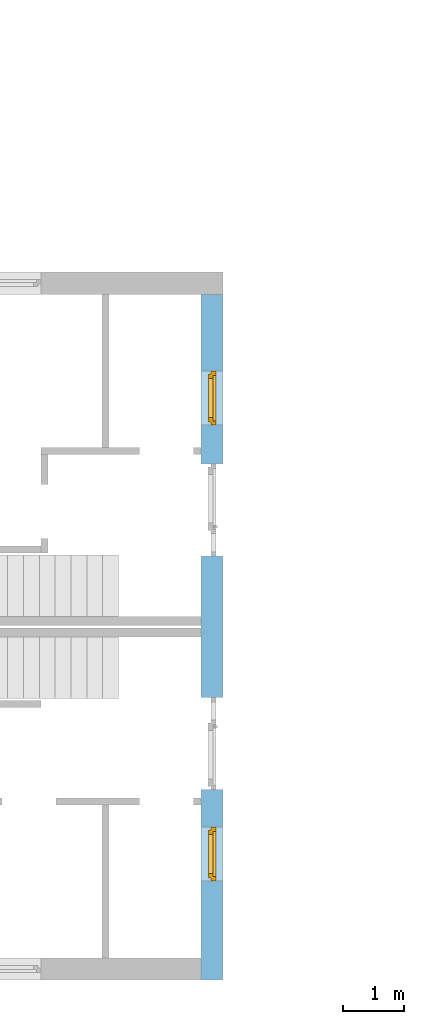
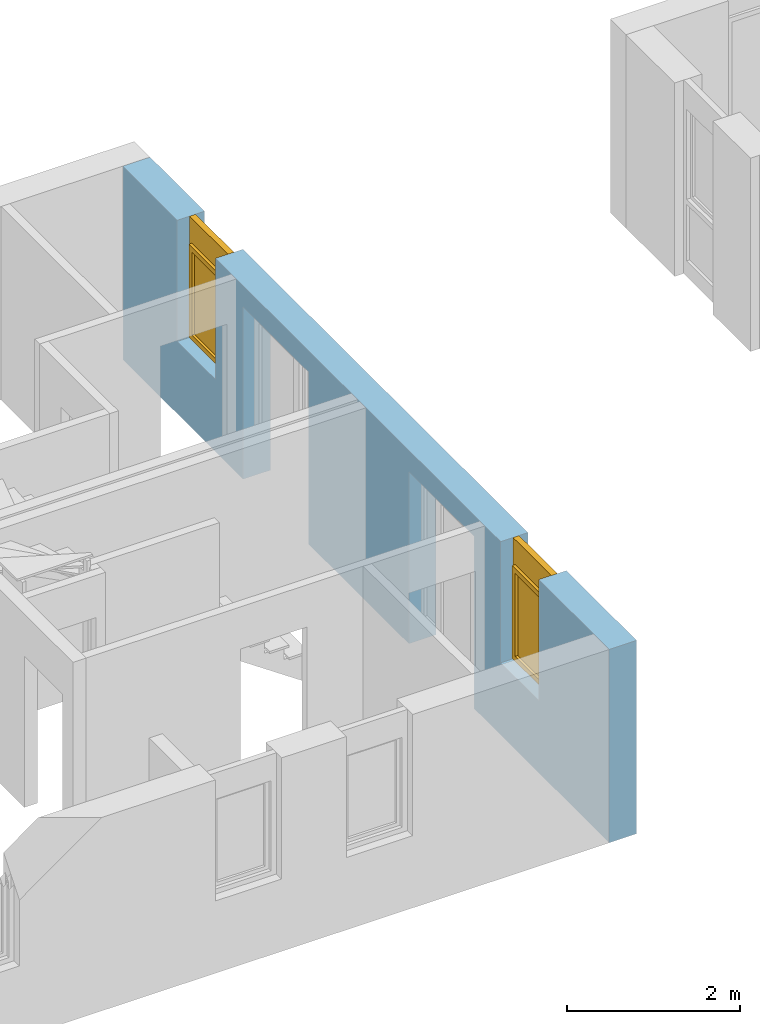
# One storey, part 10 of 41: 2 windows, 4 openings, plus 1 element that does not belong to this part.
"""IFC2X3 building model written with IfcOpenShell, lengths in millimetres."""

from ifc_helpers import new_model, entity, si_unit, converted_unit, frame, frame_2d, origin, origin_with_axes, place, context, subcontext, project, spatial, rectangle, extrude, faceted_brep, material, layer, layer_set, layer_usage, type_object, element, fill, save


model = new_model("IFC2X3")

# Units and contexts
model_context = context("Model", 3, precision=1e-05, world=origin())
body_context = subcontext(model_context, "Body", "Model", "MODEL_VIEW")
ifc_project = project(units=[si_unit("LENGTHUNIT", "METRE", prefix="MILLI"), converted_unit("PLANEANGLEUNIT", "DEGREE", entity("IfcPlaneAngleMeasure", 0.0174532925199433), si_unit("PLANEANGLEUNIT", "RADIAN"), dimensions=[0, 0, 0, 0, 0, 0, 0]), si_unit("AREAUNIT", "SQUARE_METRE"), si_unit("VOLUMEUNIT", "CUBIC_METRE")], contexts=[model_context])

# Building, storey
building_placement = place(None, origin())
building = spatial("IfcBuilding", under=ifc_project, at=building_placement, Name="Gebäude", CompositionType="ELEMENT")
storey_placement = place(building_placement, frame((0.0, 0.0, -200.0), z_axis=(0.0, 0.0, 1.0), x_axis=(1.0, 0.0, 0.0)))
storey = spatial("IfcBuildingStorey", under=building, at=storey_placement, Name="EG.- Grundriss", CompositionType="ELEMENT", Elevation=-200.0)

# Wall, openings, windows
ifc_material_1 = material(Name="Poroton")
ifc_layer = layer(ifc_material_1, 365.0000000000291)
ifc_layer_set = layer_set([ifc_layer])
ifc_layer_usage = layer_usage(ifc_layer_set, "AXIS2", "POSITIVE", 0.0)
wall_placement = place(storey_placement, frame((142357.7928067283, 125274.8877321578, 0.0), z_axis=(0.0, 0.0, 1.0), x_axis=(0.0, 1.0, 0.0)))
wall = element("IfcWallStandardCase", 1, at=wall_placement, inside=storey, material=ifc_layer_usage, Name="<Unnamed Element>", context=body_context, shape_type="SweptSolid", body=[
    extrude(rectangle(XDim=11250.00000031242, YDim=365.0000000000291, at=frame_2d((5625.000000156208, 182.5000000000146), x_axis=(1.0, 0.0))), origin_with_axes(), (0.0, 0.0, 1.0), 2730.0),
])
opening_1_placement = place(wall_placement, frame((6955.000000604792, 0.0, 0.0), z_axis=(0.0, 1.0, 0.0), x_axis=(0.0, 0.0, 1.0)))
element("IfcOpeningElement", 2, at=opening_1_placement, cuts=wall, Name="Türöffnung", ObjectType="Opening", context=body_context, shape_type="SweptSolid", body=[
    extrude(rectangle(XDim=2430.0, YDim=1510.0, at=frame_2d((1215.0, 755.0), x_axis=(1.0, 0.0))), origin_with_axes(), (0.0, 0.0, 1.0), 365.0000000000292),
])
opening_2_placement = place(wall_placement, frame((3125.0, 0.0, 0.0), z_axis=(0.0, 1.0, 0.0), x_axis=(0.0, 0.0, 1.0)))
element("IfcOpeningElement", 3, at=opening_2_placement, cuts=wall, Name="Türöffnung", ObjectType="Opening", context=body_context, shape_type="SweptSolid", body=[
    extrude(rectangle(XDim=2430.0, YDim=1510.0, at=frame_2d((1215.0, 755.0), x_axis=(1.0, 0.0))), origin_with_axes(), (0.0, 0.0, 1.0), 365.0000000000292),
])
opening_3_placement = place(wall_placement, frame((9105.000000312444, 0.0, 1020.0), z_axis=(0.0, 1.0, 0.0), x_axis=(0.0, 0.0, 1.0)))
opening_3 = element("IfcOpeningElement", 4, at=opening_3_placement, cuts=wall, Name="Fensteröffnung", ObjectType="Opening", context=body_context, shape_type="SweptSolid", body=[
    extrude(rectangle(XDim=1710.0, YDim=885.0, at=frame_2d((855.0, 442.5), x_axis=(1.0, 0.0))), origin_with_axes(), (0.0, 0.0, 1.0), 365.0000000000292),
])
opening_4_placement = place(wall_placement, frame((1625.0, 0.0, 1020.0), z_axis=(0.0, 1.0, 0.0), x_axis=(0.0, 0.0, 1.0)))
opening_4 = element("IfcOpeningElement", 5, at=opening_4_placement, cuts=wall, Name="Fensteröffnung", ObjectType="Opening", context=body_context, shape_type="SweptSolid", body=[
    extrude(rectangle(XDim=1710.0, YDim=885.0, at=frame_2d((855.0, 442.5), x_axis=(1.0, 0.0))), origin_with_axes(), (0.0, 0.0, 1.0), 365.0000000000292),
])
ifc_material_2 = material()
window_style_1 = type_object("IfcWindowStyle", Name="Fenster", ConstructionType="NOTDEFINED", OperationType="USERDEFINED", ParameterTakesPrecedence=False, Sizeable=False)
window_1_placement = place(opening_3_placement, frame((0.0, 0.0, 0.0), z_axis=(1.0, 0.0, 0.0), x_axis=(0.0, 1.0, 0.0)))
window_1 = element("IfcWindow", 6, at=window_1_placement, inside=storey, type_object=window_style_1, material=ifc_material_2, Name="Fenster", OverallHeight=1710.0, OverallWidth=885.0, context=body_context, shape_type="Brep", body=[
    faceted_brep([(885.0, 200.0000000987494, 1710.0), (815.0, 200.0000000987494, 1710.0), (815.0, 200.0000000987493, -2.449293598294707e-15), (885.0, 200.0000000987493, -2.449293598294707e-15), (885.0, 120.0000000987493, 2.449293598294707e-15), (815.0, 120.0000000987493, 2.449293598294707e-15), (815.0, 120.0000000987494, 1710.0), (885.0, 120.0000000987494, 1710.0), (885.0, 200.0000000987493, -2.449293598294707e-15), (885.0, 120.0000000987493, 2.449293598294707e-15), (885.0, 120.0000000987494, 1710.0), (885.0, 200.0000000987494, 1710.0), (815.0, 200.0000000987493, -2.449293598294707e-15), (815.0, 120.0000000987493, 2.449293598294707e-15), (885.0, 120.0000000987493, 2.449293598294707e-15), (885.0, 200.0000000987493, -2.449293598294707e-15), (815.0, 200.0000000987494, 1710.0), (815.0, 120.0000000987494, 1710.0), (815.0, 120.0000000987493, 2.449293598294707e-15), (815.0, 200.0000000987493, -2.449293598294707e-15), (885.0, 200.0000000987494, 1710.0), (885.0, 120.0000000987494, 1710.0), (815.0, 120.0000000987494, 1710.0), (815.0, 200.0000000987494, 1710.0)], [[[0, 1, 2, 3]], [[4, 5, 6, 7]], [[8, 9, 10, 11]], [[12, 13, 14, 15]], [[16, 17, 18, 19]], [[20, 21, 22, 23]]], orient=[[False], [False], [False], [False], [False], [False]]),
    faceted_brep([(69.99999998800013, 200.0000000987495, 1710.0), (-1.199987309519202e-08, 200.0000000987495, 1710.0), (-1.199987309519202e-08, 200.0000000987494, -2.449293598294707e-15), (69.99999998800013, 200.0000000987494, -2.449293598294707e-15), (69.99999998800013, 120.0000000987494, 2.449293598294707e-15), (-1.199987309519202e-08, 120.0000000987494, 2.449293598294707e-15), (-1.199987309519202e-08, 120.0000000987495, 1710.0), (69.99999998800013, 120.0000000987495, 1710.0), (69.99999998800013, 200.0000000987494, -2.449293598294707e-15), (69.99999998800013, 120.0000000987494, 2.449293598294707e-15), (69.99999998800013, 120.0000000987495, 1710.0), (69.99999998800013, 200.0000000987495, 1710.0), (-1.199987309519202e-08, 200.0000000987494, -2.449293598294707e-15), (-1.199987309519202e-08, 120.0000000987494, 2.449293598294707e-15), (69.99999998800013, 120.0000000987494, 2.449293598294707e-15), (69.99999998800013, 200.0000000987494, -2.449293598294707e-15), (-1.199987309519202e-08, 200.0000000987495, 1710.0), (-1.199987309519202e-08, 120.0000000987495, 1710.0), (-1.199987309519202e-08, 120.0000000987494, 2.449293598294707e-15), (-1.199987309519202e-08, 200.0000000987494, -2.449293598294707e-15), (69.99999998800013, 200.0000000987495, 1710.0), (69.99999998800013, 120.0000000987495, 1710.0), (-1.199987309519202e-08, 120.0000000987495, 1710.0), (-1.199987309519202e-08, 200.0000000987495, 1710.0)], [[[0, 1, 2, 3]], [[4, 5, 6, 7]], [[8, 9, 10, 11]], [[12, 13, 14, 15]], [[16, 17, 18, 19]], [[20, 21, 22, 23]]], orient=[[False], [False], [False], [False], [False], [False]]),
    faceted_brep([(815.0, 200.0000000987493, 70.0), (69.99999998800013, 200.0000000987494, 70.0), (69.99999998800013, 200.0000000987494, -2.449293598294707e-15), (815.0, 200.0000000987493, -2.449293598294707e-15), (815.0, 120.0000000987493, 2.449293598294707e-15), (69.99999998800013, 120.0000000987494, 2.449293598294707e-15), (69.99999998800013, 120.0000000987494, 70.0), (815.0, 120.0000000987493, 70.0), (815.0, 200.0000000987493, -2.449293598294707e-15), (815.0, 120.0000000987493, 2.449293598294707e-15), (815.0, 120.0000000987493, 70.0), (815.0, 200.0000000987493, 70.0), (69.99999998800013, 200.0000000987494, -2.449293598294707e-15), (69.99999998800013, 120.0000000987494, 2.449293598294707e-15), (815.0, 120.0000000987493, 2.449293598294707e-15), (815.0, 200.0000000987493, -2.449293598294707e-15), (69.99999998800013, 200.0000000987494, 70.0), (69.99999998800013, 120.0000000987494, 70.0), (69.99999998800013, 120.0000000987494, 2.449293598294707e-15), (69.99999998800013, 200.0000000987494, -2.449293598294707e-15), (815.0, 200.0000000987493, 70.0), (815.0, 120.0000000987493, 70.0), (69.99999998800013, 120.0000000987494, 70.0), (69.99999998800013, 200.0000000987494, 70.0)], [[[0, 1, 2, 3]], [[4, 5, 6, 7]], [[8, 9, 10, 11]], [[12, 13, 14, 15]], [[16, 17, 18, 19]], [[20, 21, 22, 23]]], orient=[[False], [False], [False], [False], [False], [False]]),
    faceted_brep([(815.0, 200.0000000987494, 1710.0), (69.99999998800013, 200.0000000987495, 1710.0), (69.99999998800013, 200.0000000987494, 1340.0), (815.0, 200.0000000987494, 1340.0), (815.0, 120.0000000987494, 1340.0), (69.99999998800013, 120.0000000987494, 1340.0), (69.99999998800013, 120.0000000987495, 1710.0), (815.0, 120.0000000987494, 1710.0), (815.0, 200.0000000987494, 1340.0), (815.0, 120.0000000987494, 1340.0), (815.0, 120.0000000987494, 1710.0), (815.0, 200.0000000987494, 1710.0), (69.99999998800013, 200.0000000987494, 1340.0), (69.99999998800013, 120.0000000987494, 1340.0), (815.0, 120.0000000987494, 1340.0), (815.0, 200.0000000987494, 1340.0), (69.99999998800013, 200.0000000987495, 1710.0), (69.99999998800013, 120.0000000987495, 1710.0), (69.99999998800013, 120.0000000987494, 1340.0), (69.99999998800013, 200.0000000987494, 1340.0), (815.0, 200.0000000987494, 1710.0), (815.0, 120.0000000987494, 1710.0), (69.99999998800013, 120.0000000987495, 1710.0), (69.99999998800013, 200.0000000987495, 1710.0)], [[[0, 1, 2, 3]], [[4, 5, 6, 7]], [[8, 9, 10, 11]], [[12, 13, 14, 15]], [[16, 17, 18, 19]], [[20, 21, 22, 23]]], orient=[[False], [False], [False], [False], [False], [False]]),
    faceted_brep([(835.0, 240.0000000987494, 1360.0), (765.0, 240.0000000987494, 1360.0), (765.0, 240.0000000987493, 50.0), (835.0, 240.0000000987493, 50.0), (835.0, 170.0000000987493, 50.00000000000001), (765.0, 170.0000000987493, 50.00000000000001), (765.0, 170.0000000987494, 1360.0), (835.0, 170.0000000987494, 1360.0), (835.0, 240.0000000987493, 50.0), (835.0, 170.0000000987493, 50.00000000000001), (835.0, 170.0000000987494, 1360.0), (835.0, 240.0000000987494, 1360.0), (765.0, 240.0000000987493, 50.0), (765.0, 170.0000000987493, 50.00000000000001), (835.0, 170.0000000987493, 50.00000000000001), (835.0, 240.0000000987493, 50.0), (765.0, 240.0000000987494, 1360.0), (765.0, 170.0000000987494, 1360.0), (765.0, 170.0000000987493, 50.00000000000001), (765.0, 240.0000000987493, 50.0), (835.0, 240.0000000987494, 1360.0), (835.0, 170.0000000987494, 1360.0), (765.0, 170.0000000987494, 1360.0), (765.0, 240.0000000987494, 1360.0)], [[[0, 1, 2, 3]], [[4, 5, 6, 7]], [[8, 9, 10, 11]], [[12, 13, 14, 15]], [[16, 17, 18, 19]], [[20, 21, 22, 23]]], orient=[[False], [False], [False], [False], [False], [False]]),
    faceted_brep([(119.9999999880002, 240.0000000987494, 1360.0), (49.99999998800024, 240.0000000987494, 1360.0), (49.99999998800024, 240.0000000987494, 50.0), (119.9999999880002, 240.0000000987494, 50.0), (119.9999999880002, 170.0000000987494, 50.00000000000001), (49.99999998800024, 170.0000000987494, 50.00000000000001), (49.99999998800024, 170.0000000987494, 1360.0), (119.9999999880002, 170.0000000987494, 1360.0), (119.9999999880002, 240.0000000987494, 50.0), (119.9999999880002, 170.0000000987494, 50.00000000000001), (119.9999999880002, 170.0000000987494, 1360.0), (119.9999999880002, 240.0000000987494, 1360.0), (49.99999998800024, 240.0000000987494, 50.0), (49.99999998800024, 170.0000000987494, 50.00000000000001), (119.9999999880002, 170.0000000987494, 50.00000000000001), (119.9999999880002, 240.0000000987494, 50.0), (49.99999998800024, 240.0000000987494, 1360.0), (49.99999998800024, 170.0000000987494, 1360.0), (49.99999998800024, 170.0000000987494, 50.00000000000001), (49.99999998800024, 240.0000000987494, 50.0), (119.9999999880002, 240.0000000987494, 1360.0), (119.9999999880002, 170.0000000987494, 1360.0), (49.99999998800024, 170.0000000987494, 1360.0), (49.99999998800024, 240.0000000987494, 1360.0)], [[[0, 1, 2, 3]], [[4, 5, 6, 7]], [[8, 9, 10, 11]], [[12, 13, 14, 15]], [[16, 17, 18, 19]], [[20, 21, 22, 23]]], orient=[[False], [False], [False], [False], [False], [False]]),
    faceted_brep([(765.0, 240.0000000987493, 120.0), (119.9999999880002, 240.0000000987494, 120.0), (119.9999999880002, 240.0000000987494, 50.0), (765.0, 240.0000000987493, 50.0), (765.0, 170.0000000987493, 50.00000000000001), (119.9999999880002, 170.0000000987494, 50.00000000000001), (119.9999999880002, 170.0000000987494, 120.0), (765.0, 170.0000000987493, 120.0), (765.0, 240.0000000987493, 50.0), (765.0, 170.0000000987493, 50.00000000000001), (765.0, 170.0000000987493, 120.0), (765.0, 240.0000000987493, 120.0), (119.9999999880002, 240.0000000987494, 50.0), (119.9999999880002, 170.0000000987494, 50.00000000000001), (765.0, 170.0000000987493, 50.00000000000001), (765.0, 240.0000000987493, 50.0), (119.9999999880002, 240.0000000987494, 120.0), (119.9999999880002, 170.0000000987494, 120.0), (119.9999999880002, 170.0000000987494, 50.00000000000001), (119.9999999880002, 240.0000000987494, 50.0), (765.0, 240.0000000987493, 120.0), (765.0, 170.0000000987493, 120.0), (119.9999999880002, 170.0000000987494, 120.0), (119.9999999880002, 240.0000000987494, 120.0)], [[[0, 1, 2, 3]], [[4, 5, 6, 7]], [[8, 9, 10, 11]], [[12, 13, 14, 15]], [[16, 17, 18, 19]], [[20, 21, 22, 23]]], orient=[[False], [False], [False], [False], [False], [False]]),
    faceted_brep([(765.0, 240.0000000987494, 1360.0), (119.9999999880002, 240.0000000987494, 1360.0), (119.9999999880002, 240.0000000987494, 1290.0), (765.0, 240.0000000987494, 1290.0), (765.0, 170.0000000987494, 1290.0), (119.9999999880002, 170.0000000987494, 1290.0), (119.9999999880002, 170.0000000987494, 1360.0), (765.0, 170.0000000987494, 1360.0), (765.0, 240.0000000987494, 1290.0), (765.0, 170.0000000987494, 1290.0), (765.0, 170.0000000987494, 1360.0), (765.0, 240.0000000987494, 1360.0), (119.9999999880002, 240.0000000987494, 1290.0), (119.9999999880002, 170.0000000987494, 1290.0), (765.0, 170.0000000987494, 1290.0), (765.0, 240.0000000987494, 1290.0), (119.9999999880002, 240.0000000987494, 1360.0), (119.9999999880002, 170.0000000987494, 1360.0), (119.9999999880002, 170.0000000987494, 1290.0), (119.9999999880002, 240.0000000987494, 1290.0), (765.0, 240.0000000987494, 1360.0), (765.0, 170.0000000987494, 1360.0), (119.9999999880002, 170.0000000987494, 1360.0), (119.9999999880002, 240.0000000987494, 1360.0)], [[[0, 1, 2, 3]], [[4, 5, 6, 7]], [[8, 9, 10, 11]], [[12, 13, 14, 15]], [[16, 17, 18, 19]], [[20, 21, 22, 23]]], orient=[[False], [False], [False], [False], [False], [False]]),
    faceted_brep([(765.0, 205.0000000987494, 120.0), (765.0, 205.0000000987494, 1290.0), (119.9999999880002, 205.0000000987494, 1290.0), (119.9999999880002, 205.0000000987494, 120.0), (765.0, 204.0000000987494, 120.0), (119.9999999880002, 204.0000000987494, 120.0), (119.9999999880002, 204.0000000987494, 1290.0), (765.0, 204.0000000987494, 1290.0), (765.0, 205.0000000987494, 120.0), (765.0, 204.0000000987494, 120.0), (765.0, 204.0000000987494, 1290.0), (765.0, 205.0000000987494, 1290.0), (765.0, 205.0000000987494, 1290.0), (765.0, 204.0000000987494, 1290.0), (119.9999999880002, 204.0000000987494, 1290.0), (119.9999999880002, 205.0000000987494, 1290.0), (119.9999999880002, 205.0000000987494, 1290.0), (119.9999999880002, 204.0000000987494, 1290.0), (119.9999999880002, 204.0000000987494, 120.0), (119.9999999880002, 205.0000000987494, 120.0), (119.9999999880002, 205.0000000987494, 120.0), (119.9999999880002, 204.0000000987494, 120.0), (765.0, 204.0000000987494, 120.0), (765.0, 205.0000000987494, 120.0)], [[[0, 1, 2, 3]], [[4, 5, 6, 7]], [[8, 9, 10, 11]], [[12, 13, 14, 15]], [[16, 17, 18, 19]], [[20, 21, 22, 23]]], orient=[[False], [False], [False], [False], [False], [False]]),
])
fill(opening_3, window_1)
ifc_material_3 = material()
window_style_2 = type_object("IfcWindowStyle", Name="Fenster", ConstructionType="NOTDEFINED", OperationType="USERDEFINED", ParameterTakesPrecedence=False, Sizeable=False)
window_2_placement = place(opening_4_placement, frame((0.0, 0.0, 0.0), z_axis=(1.0, 0.0, 0.0), x_axis=(0.0, 1.0, 0.0)))
window_2 = element("IfcWindow", 7, at=window_2_placement, inside=storey, type_object=window_style_2, material=ifc_material_3, Name="Fenster", OverallHeight=1710.0, OverallWidth=885.0, context=body_context, shape_type="Brep", body=[
    faceted_brep([(4.898587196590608e-15, 200.0000000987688, 1710.0), (4.898587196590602e-15, 200.0000000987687, -2.449293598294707e-15), (69.99999999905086, 200.0000000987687, -2.449293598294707e-15), (69.99999999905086, 200.0000000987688, 1710.0), (0.0, 120.0000000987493, 2.449293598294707e-15), (6.091147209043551e-30, 120.0000000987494, 1710.0), (69.99999999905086, 120.0000000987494, 1710.0), (69.99999999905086, 120.0000000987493, 2.449293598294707e-15), (4.898587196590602e-15, 200.0000000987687, -2.449293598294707e-15), (4.898587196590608e-15, 200.0000000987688, 1710.0), (6.091147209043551e-30, 120.0000000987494, 1710.0), (0.0, 120.0000000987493, 2.449293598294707e-15), (69.99999999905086, 200.0000000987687, -2.449293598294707e-15), (4.898587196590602e-15, 200.0000000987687, -2.449293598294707e-15), (0.0, 120.0000000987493, 2.449293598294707e-15), (69.99999999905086, 120.0000000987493, 2.449293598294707e-15), (69.99999999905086, 200.0000000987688, 1710.0), (69.99999999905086, 200.0000000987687, -2.449293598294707e-15), (69.99999999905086, 120.0000000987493, 2.449293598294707e-15), (69.99999999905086, 120.0000000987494, 1710.0), (4.898587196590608e-15, 200.0000000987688, 1710.0), (69.99999999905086, 200.0000000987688, 1710.0), (69.99999999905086, 120.0000000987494, 1710.0), (6.091147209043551e-30, 120.0000000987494, 1710.0)], [[[0, 1, 2, 3]], [[4, 5, 6, 7]], [[8, 9, 10, 11]], [[12, 13, 14, 15]], [[16, 17, 18, 19]], [[20, 21, 22, 23]]], orient=[[False], [False], [False], [False], [False], [False]]),
    faceted_brep([(815.0000000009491, 200.0000000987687, 1710.0), (815.0000000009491, 200.0000000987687, -2.449293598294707e-15), (884.9999999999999, 200.0000000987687, -2.449293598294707e-15), (884.9999999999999, 200.0000000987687, 1710.0), (815.0000000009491, 120.0000000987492, 2.449293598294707e-15), (815.0000000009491, 120.0000000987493, 1710.0), (884.9999999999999, 120.0000000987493, 1710.0), (884.9999999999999, 120.0000000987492, 2.449293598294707e-15), (815.0000000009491, 200.0000000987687, -2.449293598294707e-15), (815.0000000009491, 200.0000000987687, 1710.0), (815.0000000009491, 120.0000000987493, 1710.0), (815.0000000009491, 120.0000000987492, 2.449293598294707e-15), (884.9999999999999, 200.0000000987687, -2.449293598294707e-15), (815.0000000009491, 200.0000000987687, -2.449293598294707e-15), (815.0000000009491, 120.0000000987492, 2.449293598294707e-15), (884.9999999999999, 120.0000000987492, 2.449293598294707e-15), (884.9999999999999, 200.0000000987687, 1710.0), (884.9999999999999, 200.0000000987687, -2.449293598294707e-15), (884.9999999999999, 120.0000000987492, 2.449293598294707e-15), (884.9999999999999, 120.0000000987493, 1710.0), (815.0000000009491, 200.0000000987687, 1710.0), (884.9999999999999, 200.0000000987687, 1710.0), (884.9999999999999, 120.0000000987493, 1710.0), (815.0000000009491, 120.0000000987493, 1710.0)], [[[0, 1, 2, 3]], [[4, 5, 6, 7]], [[8, 9, 10, 11]], [[12, 13, 14, 15]], [[16, 17, 18, 19]], [[20, 21, 22, 23]]], orient=[[False], [False], [False], [False], [False], [False]]),
    faceted_brep([(69.99999999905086, 200.0000000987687, 70.0), (69.99999999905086, 200.0000000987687, -2.449293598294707e-15), (815.0000000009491, 200.0000000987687, -2.449293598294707e-15), (815.0000000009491, 200.0000000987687, 70.0), (69.99999999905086, 120.0000000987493, 2.449293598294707e-15), (69.99999999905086, 120.0000000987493, 70.0), (815.0000000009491, 120.0000000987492, 70.0), (815.0000000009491, 120.0000000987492, 2.449293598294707e-15), (69.99999999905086, 200.0000000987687, -2.449293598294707e-15), (69.99999999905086, 200.0000000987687, 70.0), (69.99999999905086, 120.0000000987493, 70.0), (69.99999999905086, 120.0000000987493, 2.449293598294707e-15), (815.0000000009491, 200.0000000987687, -2.449293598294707e-15), (69.99999999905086, 200.0000000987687, -2.449293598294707e-15), (69.99999999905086, 120.0000000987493, 2.449293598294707e-15), (815.0000000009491, 120.0000000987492, 2.449293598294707e-15), (815.0000000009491, 200.0000000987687, 70.0), (815.0000000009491, 200.0000000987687, -2.449293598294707e-15), (815.0000000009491, 120.0000000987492, 2.449293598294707e-15), (815.0000000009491, 120.0000000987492, 70.0), (69.99999999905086, 200.0000000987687, 70.0), (815.0000000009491, 200.0000000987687, 70.0), (815.0000000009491, 120.0000000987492, 70.0), (69.99999999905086, 120.0000000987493, 70.0)], [[[0, 1, 2, 3]], [[4, 5, 6, 7]], [[8, 9, 10, 11]], [[12, 13, 14, 15]], [[16, 17, 18, 19]], [[20, 21, 22, 23]]], orient=[[False], [False], [False], [False], [False], [False]]),
    faceted_brep([(69.99999999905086, 200.0000000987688, 1710.0), (69.99999999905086, 200.0000000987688, 1340.0), (815.0000000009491, 200.0000000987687, 1340.0), (815.0000000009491, 200.0000000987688, 1710.0), (69.99999999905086, 120.0000000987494, 1340.0), (69.99999999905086, 120.0000000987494, 1710.0), (815.0000000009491, 120.0000000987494, 1710.0), (815.0000000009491, 120.0000000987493, 1340.0), (69.99999999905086, 200.0000000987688, 1340.0), (69.99999999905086, 200.0000000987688, 1710.0), (69.99999999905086, 120.0000000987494, 1710.0), (69.99999999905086, 120.0000000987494, 1340.0), (815.0000000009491, 200.0000000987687, 1340.0), (69.99999999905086, 200.0000000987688, 1340.0), (69.99999999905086, 120.0000000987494, 1340.0), (815.0000000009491, 120.0000000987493, 1340.0), (815.0000000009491, 200.0000000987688, 1710.0), (815.0000000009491, 200.0000000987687, 1340.0), (815.0000000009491, 120.0000000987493, 1340.0), (815.0000000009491, 120.0000000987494, 1710.0), (69.99999999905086, 200.0000000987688, 1710.0), (815.0000000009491, 200.0000000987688, 1710.0), (815.0000000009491, 120.0000000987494, 1710.0), (69.99999999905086, 120.0000000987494, 1710.0)], [[[0, 1, 2, 3]], [[4, 5, 6, 7]], [[8, 9, 10, 11]], [[12, 13, 14, 15]], [[16, 17, 18, 19]], [[20, 21, 22, 23]]], orient=[[False], [False], [False], [False], [False], [False]]),
    faceted_brep([(49.99999999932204, 240.0000000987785, 1360.0), (49.99999999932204, 240.0000000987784, 50.0), (119.9999999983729, 240.0000000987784, 50.0), (119.9999999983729, 240.0000000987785, 1360.0), (49.99999999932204, 170.0000000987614, 50.00000000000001), (49.99999999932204, 170.0000000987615, 1360.0), (119.9999999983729, 170.0000000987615, 1360.0), (119.9999999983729, 170.0000000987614, 50.00000000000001), (49.99999999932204, 240.0000000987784, 50.0), (49.99999999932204, 240.0000000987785, 1360.0), (49.99999999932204, 170.0000000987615, 1360.0), (49.99999999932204, 170.0000000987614, 50.00000000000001), (119.9999999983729, 240.0000000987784, 50.0), (49.99999999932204, 240.0000000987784, 50.0), (49.99999999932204, 170.0000000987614, 50.00000000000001), (119.9999999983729, 170.0000000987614, 50.00000000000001), (119.9999999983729, 240.0000000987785, 1360.0), (119.9999999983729, 240.0000000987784, 50.0), (119.9999999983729, 170.0000000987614, 50.00000000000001), (119.9999999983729, 170.0000000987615, 1360.0), (49.99999999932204, 240.0000000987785, 1360.0), (119.9999999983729, 240.0000000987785, 1360.0), (119.9999999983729, 170.0000000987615, 1360.0), (49.99999999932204, 170.0000000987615, 1360.0)], [[[0, 1, 2, 3]], [[4, 5, 6, 7]], [[8, 9, 10, 11]], [[12, 13, 14, 15]], [[16, 17, 18, 19]], [[20, 21, 22, 23]]], orient=[[False], [False], [False], [False], [False], [False]]),
    faceted_brep([(765.000000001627, 240.0000000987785, 1360.0), (765.000000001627, 240.0000000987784, 50.0), (835.0000000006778, 240.0000000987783, 50.0), (835.0000000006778, 240.0000000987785, 1360.0), (765.000000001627, 170.0000000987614, 50.00000000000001), (765.000000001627, 170.0000000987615, 1360.0), (835.0000000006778, 170.0000000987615, 1360.0), (835.0000000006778, 170.0000000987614, 50.00000000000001), (765.000000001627, 240.0000000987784, 50.0), (765.000000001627, 240.0000000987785, 1360.0), (765.000000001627, 170.0000000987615, 1360.0), (765.000000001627, 170.0000000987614, 50.00000000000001), (835.0000000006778, 240.0000000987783, 50.0), (765.000000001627, 240.0000000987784, 50.0), (765.000000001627, 170.0000000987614, 50.00000000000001), (835.0000000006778, 170.0000000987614, 50.00000000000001), (835.0000000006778, 240.0000000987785, 1360.0), (835.0000000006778, 240.0000000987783, 50.0), (835.0000000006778, 170.0000000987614, 50.00000000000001), (835.0000000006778, 170.0000000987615, 1360.0), (765.000000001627, 240.0000000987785, 1360.0), (835.0000000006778, 240.0000000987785, 1360.0), (835.0000000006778, 170.0000000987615, 1360.0), (765.000000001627, 170.0000000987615, 1360.0)], [[[0, 1, 2, 3]], [[4, 5, 6, 7]], [[8, 9, 10, 11]], [[12, 13, 14, 15]], [[16, 17, 18, 19]], [[20, 21, 22, 23]]], orient=[[False], [False], [False], [False], [False], [False]]),
    faceted_brep([(119.9999999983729, 240.0000000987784, 120.0), (119.9999999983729, 240.0000000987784, 50.0), (765.000000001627, 240.0000000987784, 50.0), (765.000000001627, 240.0000000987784, 120.0), (119.9999999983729, 170.0000000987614, 50.00000000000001), (119.9999999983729, 170.0000000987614, 120.0), (765.000000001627, 170.0000000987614, 120.0), (765.000000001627, 170.0000000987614, 50.00000000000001), (119.9999999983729, 240.0000000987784, 50.0), (119.9999999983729, 240.0000000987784, 120.0), (119.9999999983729, 170.0000000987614, 120.0), (119.9999999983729, 170.0000000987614, 50.00000000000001), (765.000000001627, 240.0000000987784, 50.0), (119.9999999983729, 240.0000000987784, 50.0), (119.9999999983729, 170.0000000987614, 50.00000000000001), (765.000000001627, 170.0000000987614, 50.00000000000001), (765.000000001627, 240.0000000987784, 120.0), (765.000000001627, 240.0000000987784, 50.0), (765.000000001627, 170.0000000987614, 50.00000000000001), (765.000000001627, 170.0000000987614, 120.0), (119.9999999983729, 240.0000000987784, 120.0), (765.000000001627, 240.0000000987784, 120.0), (765.000000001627, 170.0000000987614, 120.0), (119.9999999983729, 170.0000000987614, 120.0)], [[[0, 1, 2, 3]], [[4, 5, 6, 7]], [[8, 9, 10, 11]], [[12, 13, 14, 15]], [[16, 17, 18, 19]], [[20, 21, 22, 23]]], orient=[[False], [False], [False], [False], [False], [False]]),
    faceted_brep([(119.9999999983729, 240.0000000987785, 1360.0), (119.9999999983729, 240.0000000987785, 1290.0), (765.000000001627, 240.0000000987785, 1290.0), (765.000000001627, 240.0000000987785, 1360.0), (119.9999999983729, 170.0000000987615, 1290.0), (119.9999999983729, 170.0000000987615, 1360.0), (765.000000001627, 170.0000000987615, 1360.0), (765.000000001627, 170.0000000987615, 1290.0), (119.9999999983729, 240.0000000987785, 1290.0), (119.9999999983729, 240.0000000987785, 1360.0), (119.9999999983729, 170.0000000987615, 1360.0), (119.9999999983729, 170.0000000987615, 1290.0), (765.000000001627, 240.0000000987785, 1290.0), (119.9999999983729, 240.0000000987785, 1290.0), (119.9999999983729, 170.0000000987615, 1290.0), (765.000000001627, 170.0000000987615, 1290.0), (765.000000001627, 240.0000000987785, 1360.0), (765.000000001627, 240.0000000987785, 1290.0), (765.000000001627, 170.0000000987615, 1290.0), (765.000000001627, 170.0000000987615, 1360.0), (119.9999999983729, 240.0000000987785, 1360.0), (765.000000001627, 240.0000000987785, 1360.0), (765.000000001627, 170.0000000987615, 1360.0), (119.9999999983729, 170.0000000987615, 1360.0)], [[[0, 1, 2, 3]], [[4, 5, 6, 7]], [[8, 9, 10, 11]], [[12, 13, 14, 15]], [[16, 17, 18, 19]], [[20, 21, 22, 23]]], orient=[[False], [False], [False], [False], [False], [False]]),
    faceted_brep([(119.9999999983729, 205.0000000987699, 120.0), (765.000000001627, 205.0000000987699, 120.0), (765.000000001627, 205.00000009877, 1290.0), (119.9999999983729, 205.00000009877, 1290.0), (119.9999999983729, 204.0000000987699, 120.0), (119.9999999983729, 204.00000009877, 1290.0), (765.000000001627, 204.00000009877, 1290.0), (765.000000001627, 204.0000000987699, 120.0), (119.9999999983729, 205.0000000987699, 120.0), (119.9999999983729, 204.0000000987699, 120.0), (765.000000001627, 204.0000000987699, 120.0), (765.000000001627, 205.0000000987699, 120.0), (765.000000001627, 205.0000000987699, 120.0), (765.000000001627, 204.0000000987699, 120.0), (765.000000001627, 204.00000009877, 1290.0), (765.000000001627, 205.00000009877, 1290.0), (765.000000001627, 205.00000009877, 1290.0), (765.000000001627, 204.00000009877, 1290.0), (119.9999999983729, 204.00000009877, 1290.0), (119.9999999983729, 205.00000009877, 1290.0), (119.9999999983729, 205.00000009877, 1290.0), (119.9999999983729, 204.00000009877, 1290.0), (119.9999999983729, 204.0000000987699, 120.0), (119.9999999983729, 205.0000000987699, 120.0)], [[[0, 1, 2, 3]], [[4, 5, 6, 7]], [[8, 9, 10, 11]], [[12, 13, 14, 15]], [[16, 17, 18, 19]], [[20, 21, 22, 23]]], orient=[[False], [False], [False], [False], [False], [False]]),
])
fill(opening_4, window_2)

save(model, "model.ifc")
